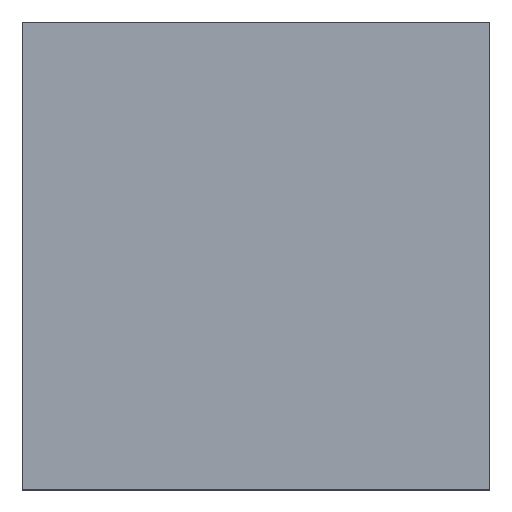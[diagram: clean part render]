
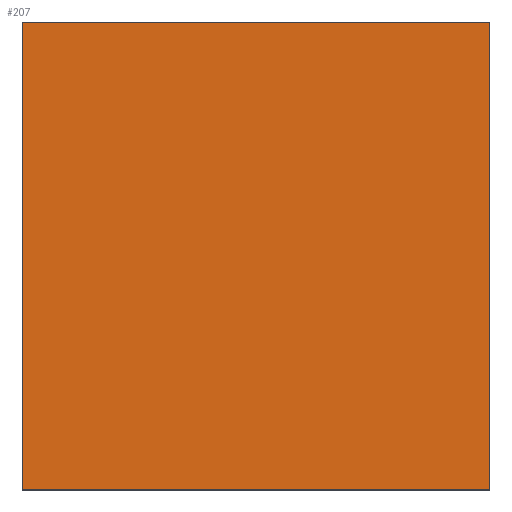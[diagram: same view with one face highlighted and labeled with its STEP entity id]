
A CAD part, top view. The second image highlights one B-rep face of the part: STEP entity #207.
In plain terms, the highlighted planar face has unit normal (0, 0, 1).
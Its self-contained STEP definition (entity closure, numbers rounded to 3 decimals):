
#35=FACE_OUTER_BOUND('',#53,.T.);
#53=EDGE_LOOP('',(#158,#159,#160,#161));
#67=LINE('',#336,#83);
#69=LINE('',#340,#85);
#71=LINE('',#344,#87);
#73=LINE('',#347,#89);
#83=VECTOR('',#271,10.);
#85=VECTOR('',#275,10.);
#87=VECTOR('',#279,10.);
#89=VECTOR('',#283,10.);
#102=VERTEX_POINT('',#333);
#103=VERTEX_POINT('',#335);
#104=VERTEX_POINT('',#339);
#105=VERTEX_POINT('',#343);
#119=EDGE_CURVE('',#103,#102,#67,.T.);
#121=EDGE_CURVE('',#104,#103,#69,.T.);
#123=EDGE_CURVE('',#105,#104,#71,.T.);
#125=EDGE_CURVE('',#102,#105,#73,.T.);
#158=ORIENTED_EDGE('',*,*,#125,.T.);
#159=ORIENTED_EDGE('',*,*,#123,.T.);
#160=ORIENTED_EDGE('',*,*,#121,.T.);
#161=ORIENTED_EDGE('',*,*,#119,.T.);
#187=PLANE('',#239);
#207=ADVANCED_FACE('',(#35),#187,.T.);
#239=AXIS2_PLACEMENT_3D('',#348,#284,#285);
#271=DIRECTION('',(0.,1.,0.));
#275=DIRECTION('',(1.,0.,0.));
#279=DIRECTION('',(0.,-1.,0.));
#283=DIRECTION('',(-1.,0.,0.));
#284=DIRECTION('center_axis',(0.,0.,1.));
#285=DIRECTION('ref_axis',(1.,0.,0.));
#333=CARTESIAN_POINT('',(145.,145.,305.));
#335=CARTESIAN_POINT('',(145.,-145.,305.));
#336=CARTESIAN_POINT('',(145.,145.,305.));
#339=CARTESIAN_POINT('',(-145.,-145.,305.));
#340=CARTESIAN_POINT('',(145.,-145.,305.));
#343=CARTESIAN_POINT('',(-145.,145.,305.));
#344=CARTESIAN_POINT('',(-145.,-145.,305.));
#347=CARTESIAN_POINT('',(-145.,145.,305.));
#348=CARTESIAN_POINT('Origin',(0.,0.,
305.));
